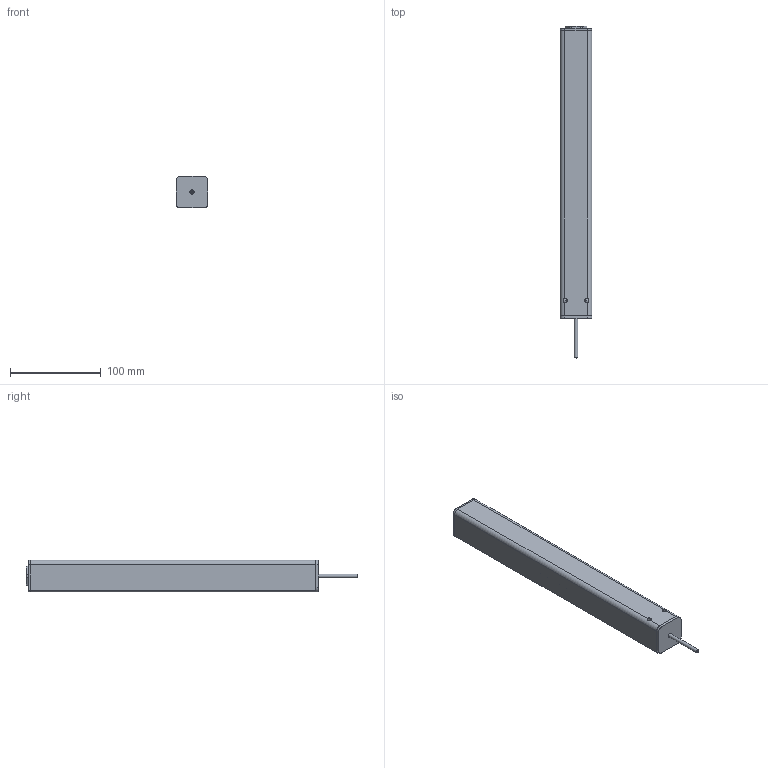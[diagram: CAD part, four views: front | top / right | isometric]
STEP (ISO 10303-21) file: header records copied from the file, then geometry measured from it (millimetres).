
FILE_DESCRIPTION(/* description */ ('Unknown'),/* implementation_level */ '2;1');
FILE_NAME(/* name */ '106.20002 Lineareinheit LA 1820_eingefahren',/* time_stamp */ '2017-08-24T11:41:17+02:00',/* author */ ('Unknown'),/* organization */ ('Unknown'),/* preprocessor_version */ 'ST-DEVELOPER v16.7',/* originating_system */ 'DEX',/* authorisation */ $);
FILE_SCHEMA (('AUTOMOTIVE_DESIGN {1 0 10303 214 3 1 1}'));
Products named in the file (9): 106.20002; 119.00002; 142.00014; 115.00008; 142.00011; 122.00018; 125.00051; 123.00002; 113.00002_70mm
Assembly tree (9 placements, depth 2):
  106.20002
    119.00002
    142.00014  x2
    115.00008
    142.00011
    122.00018
    125.00051
    123.00002
    113.00002_70mm
Bounding box: 35 x 365.5 x 35 mm (x, y, z)
Volume: 233132.4 mm3; surface area: 160013 mm2
Topology: 8 solids, 8 shells, 776 faces, 1818 edges, 1082 vertices
Faces by surface type: cylinder 273, bspline 224, plane 204, cone 36, torus 27, sphere 12
Full cylindrical faces by diameter (mm): 2.2 x1, 4 x7, 4.134 x4, 5 x1, 6.647 x1, 8.376 x1, 17.3 x1, 19 x1, 20.8 x3, 21 x1, 25 x1, 28.3 x1, 30.4 x1, 30.63 x1
Entity records: 74513 total; most frequent: CARTESIAN_POINT 58862, ORIENTED_EDGE 3422, DIRECTION 2541, EDGE_CURVE 1711, VERTEX_POINT 1037, AXIS2_PLACEMENT_3D 983, EDGE_LOOP 858, FACE_BOUND 858
